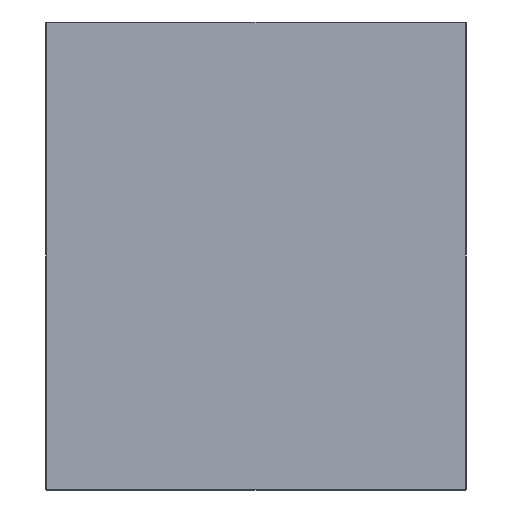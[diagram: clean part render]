
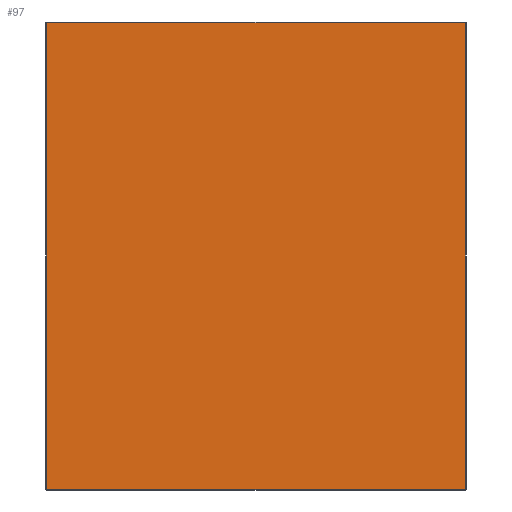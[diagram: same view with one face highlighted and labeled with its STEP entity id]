
A CAD part, front view. The second image highlights one B-rep face of the part: STEP entity #97.
In plain terms, the highlighted planar face has unit normal (0, -1, 0).
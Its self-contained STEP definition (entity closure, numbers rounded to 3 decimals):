
#4 = VERTEX_POINT ( 'NONE', #255 ) ;
#10 = DIRECTION ( 'NONE',  ( -1., 0., 0. ) ) ;
#27 = DIRECTION ( 'NONE',  ( 1., 0., 0. ) ) ;
#45 = EDGE_CURVE ( 'NONE', #99, #498, #382, .T. ) ;
#51 = VECTOR ( 'NONE', #10, 1000. ) ;
#72 = CARTESIAN_POINT ( 'NONE',  ( -222., 0., 247. ) ) ;
#76 = VECTOR ( 'NONE', #407, 1000. ) ;
#80 = DIRECTION ( 'NONE',  ( 0., 0., 1. ) ) ;
#84 = EDGE_CURVE ( 'NONE', #107, #4, #523, .T. ) ;
#97 = ADVANCED_FACE ( 'NONE', ( #154 ), #499, .F. ) ;
#99 = VERTEX_POINT ( 'NONE', #72 ) ;
#107 = VERTEX_POINT ( 'NONE', #543 ) ;
#154 = FACE_OUTER_BOUND ( 'NONE', #280, .T. ) ;
#196 = ORIENTED_EDGE ( 'NONE', *, *, #222, .T. ) ;
#222 = EDGE_CURVE ( 'NONE', #4, #99, #608, .T. ) ;
#251 = EDGE_CURVE ( 'NONE', #498, #107, #385, .T. ) ;
#255 = CARTESIAN_POINT ( 'NONE',  ( 222., 0., 247. ) ) ;
#280 = EDGE_LOOP ( 'NONE', ( #420, #196, #374, #349 ) ) ;
#284 = VECTOR ( 'NONE', #27, 1000. ) ;
#346 = CARTESIAN_POINT ( 'NONE',  ( -222., 0., -247. ) ) ;
#349 = ORIENTED_EDGE ( 'NONE', *, *, #251, .T. ) ;
#374 = ORIENTED_EDGE ( 'NONE', *, *, #45, .T. ) ;
#382 = LINE ( 'NONE', #628, #76 ) ;
#385 = LINE ( 'NONE', #598, #284 ) ;
#407 = DIRECTION ( 'NONE',  ( 0., 0., -1. ) ) ;
#420 = ORIENTED_EDGE ( 'NONE', *, *, #84, .T. ) ;
#431 = CARTESIAN_POINT ( 'NONE',  ( 222., 0., 0. ) ) ;
#449 = DIRECTION ( 'NONE',  ( 0., 1., 0. ) ) ;
#487 = DIRECTION ( 'NONE',  ( 0., 0., 1. ) ) ;
#498 = VERTEX_POINT ( 'NONE', #346 ) ;
#499 = PLANE ( 'NONE',  #637 ) ;
#513 = VECTOR ( 'NONE', #487, 1000. ) ;
#523 = LINE ( 'NONE', #431, #513 ) ;
#543 = CARTESIAN_POINT ( 'NONE',  ( 222., 0., -247. ) ) ;
#547 = CARTESIAN_POINT ( 'NONE',  ( 0., 0., 0. ) ) ;
#598 = CARTESIAN_POINT ( 'NONE',  ( 0., 0., -247. ) ) ;
#608 = LINE ( 'NONE', #642, #51 ) ;
#628 = CARTESIAN_POINT ( 'NONE',  ( -222., 0., 0. ) ) ;
#637 = AXIS2_PLACEMENT_3D ( 'NONE', #547, #449, #80 ) ;
#642 = CARTESIAN_POINT ( 'NONE',  ( 0., 0., 247. ) ) ;
